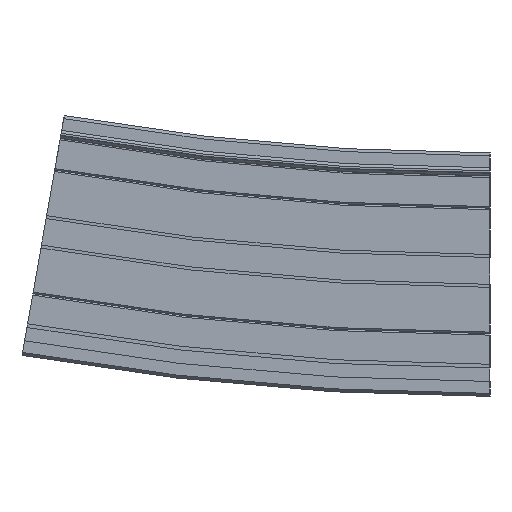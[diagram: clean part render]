
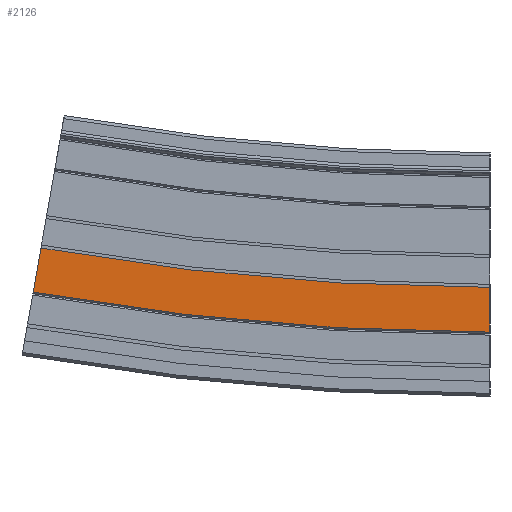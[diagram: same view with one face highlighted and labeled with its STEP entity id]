
A CAD part, left-side view. The second image highlights one B-rep face of the part: STEP entity #2126.
In plain terms, the highlighted planar face has unit normal (-1, 0, 0).
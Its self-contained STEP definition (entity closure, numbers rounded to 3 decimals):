
#214=CIRCLE('',#2314,865.5);
#215=CIRCLE('',#2316,880.5);
#325=FACE_OUTER_BOUND('',#443,.T.);
#443=EDGE_LOOP('',(#1725,#1726,#1727,#1728));
#593=LINE('',#8156,#771);
#594=LINE('',#8158,#772);
#771=VECTOR('',#2772,10.);
#772=VECTOR('',#2773,10.);
#983=VERTEX_POINT('',#8149);
#984=VERTEX_POINT('',#8151);
#985=VERTEX_POINT('',#8155);
#986=VERTEX_POINT('',#8157);
#1271=EDGE_CURVE('',#983,#984,#214,.T.);
#1272=EDGE_CURVE('',#985,#983,#593,.T.);
#1273=EDGE_CURVE('',#986,#984,#594,.T.);
#1274=EDGE_CURVE('',#985,#986,#215,.T.);
#1725=ORIENTED_EDGE('',*,*,#1272,.T.);
#1726=ORIENTED_EDGE('',*,*,#1271,.T.);
#1727=ORIENTED_EDGE('',*,*,#1273,.F.);
#1728=ORIENTED_EDGE('',*,*,#1274,.F.);
#2030=PLANE('',#2315);
#2126=ADVANCED_FACE('',(#325),#2030,.T.);
#2314=AXIS2_PLACEMENT_3D('',#8153,#2768,#2769);
#2315=AXIS2_PLACEMENT_3D('',#8154,#2770,#2771);
#2316=AXIS2_PLACEMENT_3D('',#8159,#2774,#2775);
#2768=DIRECTION('center_axis',(1.,0.,0.));
#2769=DIRECTION('ref_axis',(0.,0.,-1.));
#2770=DIRECTION('center_axis',(-1.,0.,0.));
#2771=DIRECTION('ref_axis',(0.,0.,1.));
#2772=DIRECTION('',(0.,0.,1.));
#2773=DIRECTION('',(0.,-0.174,0.985));
#2774=DIRECTION('center_axis',(1.,0.,0.));
#2775=DIRECTION('ref_axis',(0.,0.,-1.));
#8149=CARTESIAN_POINT('',(-112.,0.,-5.5));
#8151=CARTESIAN_POINT('',(-112.,150.292,7.649));
#8153=CARTESIAN_POINT('Origin',(-112.,0.,860.));
#8154=CARTESIAN_POINT('Origin',(-112.,0.,-20.5));
#8155=CARTESIAN_POINT('',(-112.,0.,-20.5));
#8156=CARTESIAN_POINT('',(-112.,0.,-20.5));
#8157=CARTESIAN_POINT('',(-112.,152.897,-7.123));
#8158=CARTESIAN_POINT('',(-112.,152.897,-7.123));
#8159=CARTESIAN_POINT('Origin',(-112.,0.,860.));
